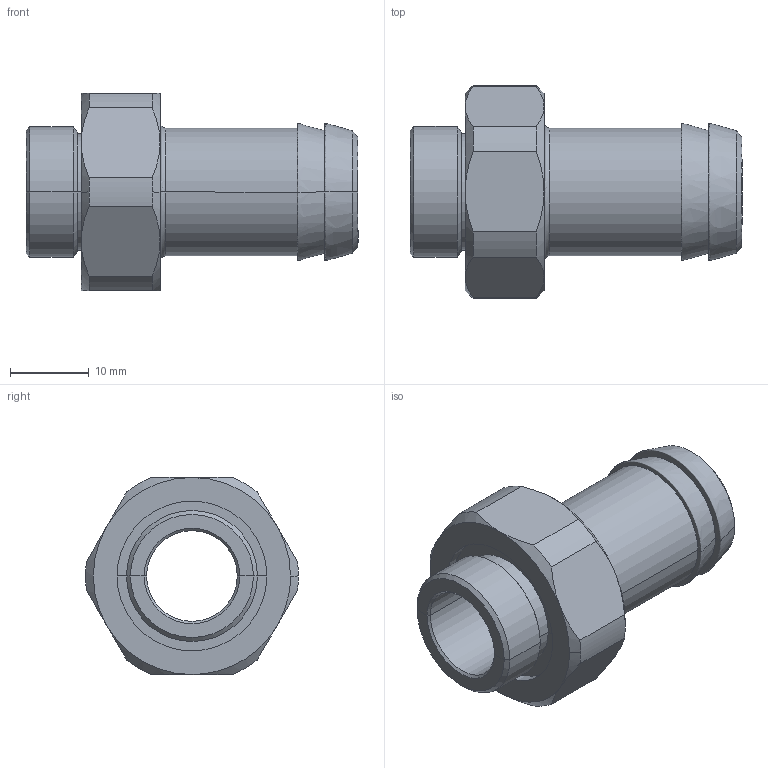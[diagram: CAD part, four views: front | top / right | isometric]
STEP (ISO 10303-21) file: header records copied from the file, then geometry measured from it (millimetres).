
FILE_DESCRIPTION(/* description */ (''),/* implementation_level */ '2;1');
FILE_NAME(/* name */ 'FIT_V16G38',/* time_stamp */ '2025-11-25T17:59:30+09:00',/* author */ (''),/* organization */ (''),/* preprocessor_version */ 'ST-DEVELOPER v19.2',/* originating_system */ 'Rhino 8.21',/* authorisation */ '');
FILE_SCHEMA (('CONFIG_CONTROL_DESIGN'));
Length unit declared in the file: millimetre
Products named in the file (1): Document
Bounding box: 42.1 x 26.99 x 25 mm (x, y, z)
Volume: 6774 mm3; surface area: 5113.3 mm2
Topology: 1 solids, 1 shells, 64 faces, 140 edges, 78 vertices
Faces by surface type: bspline 30, cylinder 18, plane 16
Entity records: 2430 total; most frequent: CARTESIAN_POINT 1173, ORIENTED_EDGE 280, DIRECTION 166, EDGE_CURVE 140, AXIS2_PLACEMENT_3D 100, VERTEX_POINT 78, EDGE_LOOP 66, ADVANCED_FACE 64
